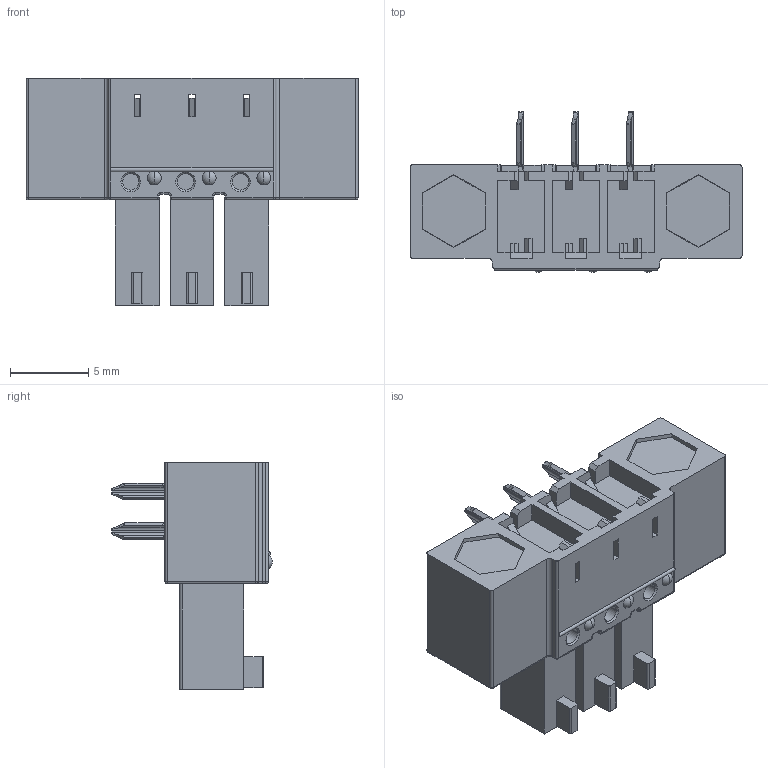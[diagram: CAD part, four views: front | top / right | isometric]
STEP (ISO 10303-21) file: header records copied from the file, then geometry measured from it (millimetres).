
FILE_DESCRIPTION((''),'2;1');
FILE_NAME('33','2019-04-18T',('zhenbing.lai'),(''),'CREO PARAMETRIC BY PTC INC, 2016260','CREO PARAMETRIC BY PTC INC, 2016260','');
FILE_SCHEMA(('CONFIG_CONTROL_DESIGN'));
Length unit declared in the file: millimetre
Products named in the file (1): 33
Bounding box: 21.2 x 10.25 x 14.5 mm (x, y, z)
Volume: 1138.3 mm3; surface area: 1228.4 mm2
Topology: 1 solids, 1 shells, 521 faces, 1477 edges, 965 vertices
Faces by surface type: plane 265, cylinder 114, bspline 68, torus 46, cone 16, sphere 12
Entity records: 19181 total; most frequent: CARTESIAN_POINT 6323, ORIENTED_EDGE 2930, DIRECTION 2313, EDGE_CURVE 1465, VERTEX_POINT 965, VECTOR 807, LINE 807, AXIS2_PLACEMENT_3D 753
